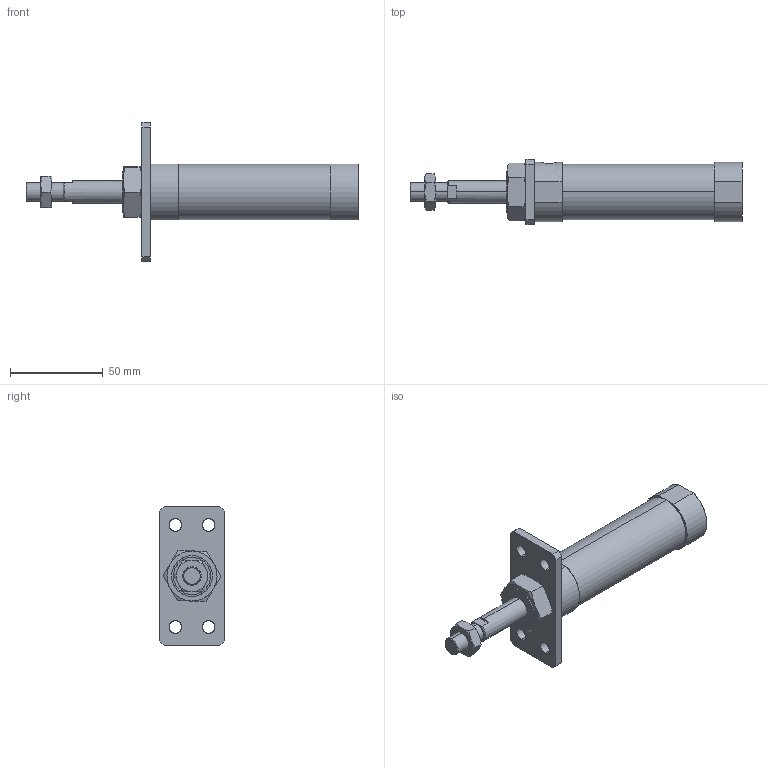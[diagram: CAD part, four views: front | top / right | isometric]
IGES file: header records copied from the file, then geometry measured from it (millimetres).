
Start section: SolidWorks IGES file using analytic representation for surfaces
Global section: file name: C:\Users\Toshiba\Desktop\JGND0-25-25-A.IGS; native system: SolidWorks 2014; preprocessor: SolidWorks 2014; author: Toshiba; date: 160804.100833; units: millimetre
Bounding box: 179 x 35 x 75 mm (x, y, z)
Surface area: 24741.7 mm2 (no closed solid volume)
Topology: 0 solids, 0 shells, 105 faces, 1918 edges, 1916 vertices
Faces by surface type: bspline 69, revolution 36
